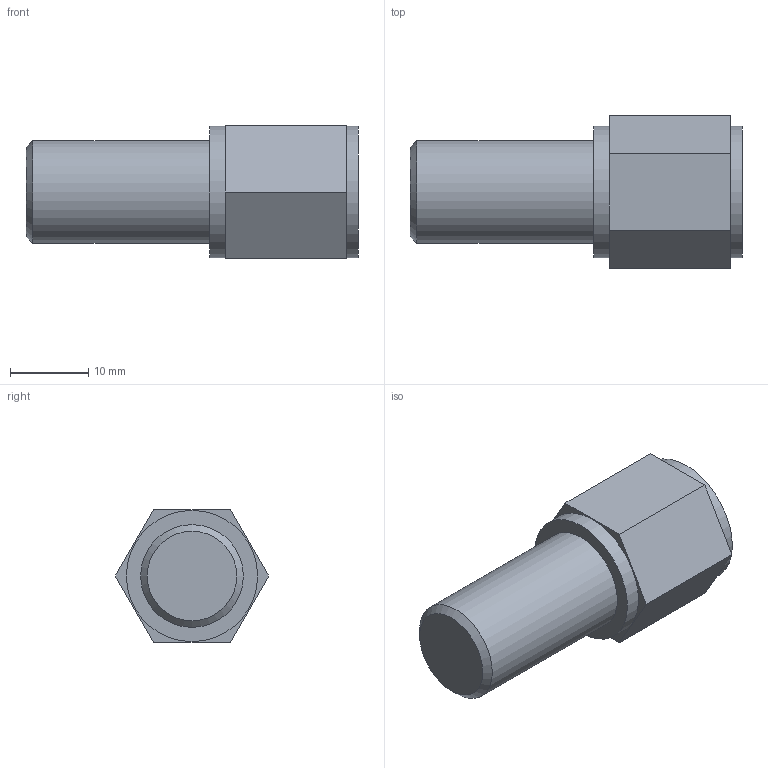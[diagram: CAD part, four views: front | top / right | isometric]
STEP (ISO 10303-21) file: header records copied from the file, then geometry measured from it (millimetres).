
FILE_DESCRIPTION( ( 'STEP AP214' ), '1' );
FILE_NAME( 'p:/temp/worker_149/temp/exporttempdir_2624_137_HOn7Q/format_1/50A14U.stp', '2021-02-05T06:49:25', ( 'License CC BY-ND 4.0' ), ( 'CADENAS' ), ' ', 'PARTsolutions', ' ' );
FILE_SCHEMA( ( 'AUTOMOTIVE_DESIGN { 1 0 10303 214 1 1 1 1 }' ) );
Length unit declared in the file: millimetre
Products named in the file (1): _50A14U
Bounding box: 42.5 x 19.63 x 17 mm (x, y, z)
Volume: 7764.8 mm3; surface area: 2610.1 mm2
Topology: 1 solids, 1 shells, 18 faces, 36 edges, 23 vertices
Faces by surface type: plane 11, cylinder 4, cone 3
Full cylindrical faces by diameter (mm): 4.134 x1, 13.157 x1, 16.8 x2
Entity records: 586 total; most frequent: DIRECTION 76, CARTESIAN_POINT 70, ORIENTED_EDGE 56, AXIS2_PLACEMENT_3D 29, EDGE_LOOP 28, EDGE_CURVE 28, VERTEX_POINT 23, FACE_OUTER_BOUND 22
